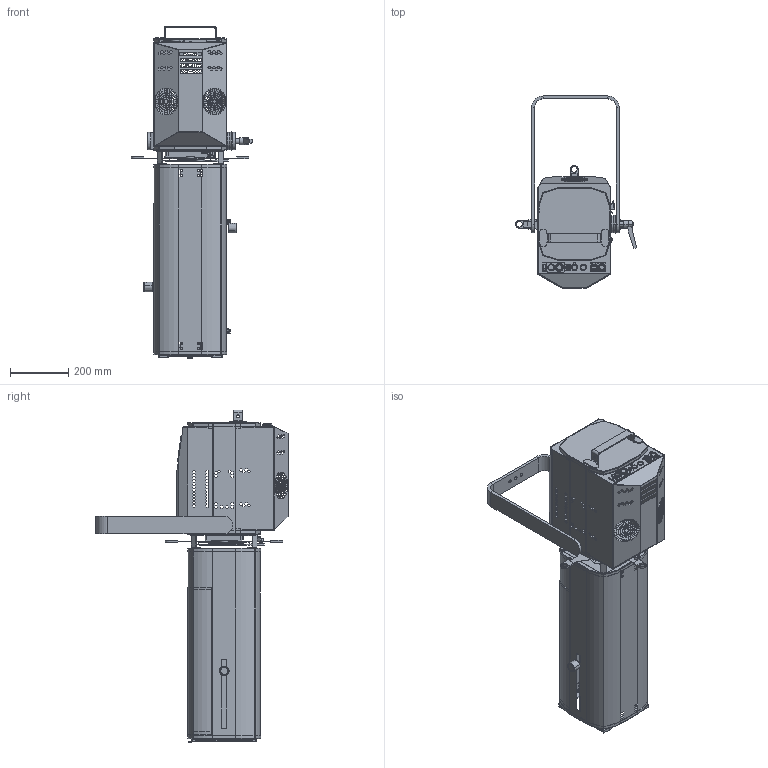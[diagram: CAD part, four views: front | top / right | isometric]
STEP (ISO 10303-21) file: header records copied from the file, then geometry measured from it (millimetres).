
FILE_DESCRIPTION (( 'STEP AP203' ), '1' );
FILE_NAME ('_961 CHARLES.STEP', '2018-11-27T13:22:12', ( '' ), ( '' ), 'SwSTEP 2.0', 'SolidWorks 2018', '' );
FILE_SCHEMA (( 'CONFIG_CONTROL_DESIGN' ));
Products named in the file (1): _961 CHARLES
Bounding box: 415.13 x 659 x 1138.71 mm (x, y, z)
Volume: 2839416.6 mm3; surface area: 3667334.2 mm2
Topology: 97 solids, 97 shells, 3410 faces, 8528 edges, 5227 vertices
Faces by surface type: plane 2429, cylinder 670, torus 169, bspline 116, cone 26
Entity records: 102547 total; most frequent: CARTESIAN_POINT 20775, ORIENTED_EDGE 17020, DIRECTION 16417, EDGE_CURVE 8510, VECTOR 6505, LINE 6505, VERTEX_POINT 5227, AXIS2_PLACEMENT_3D 4956
